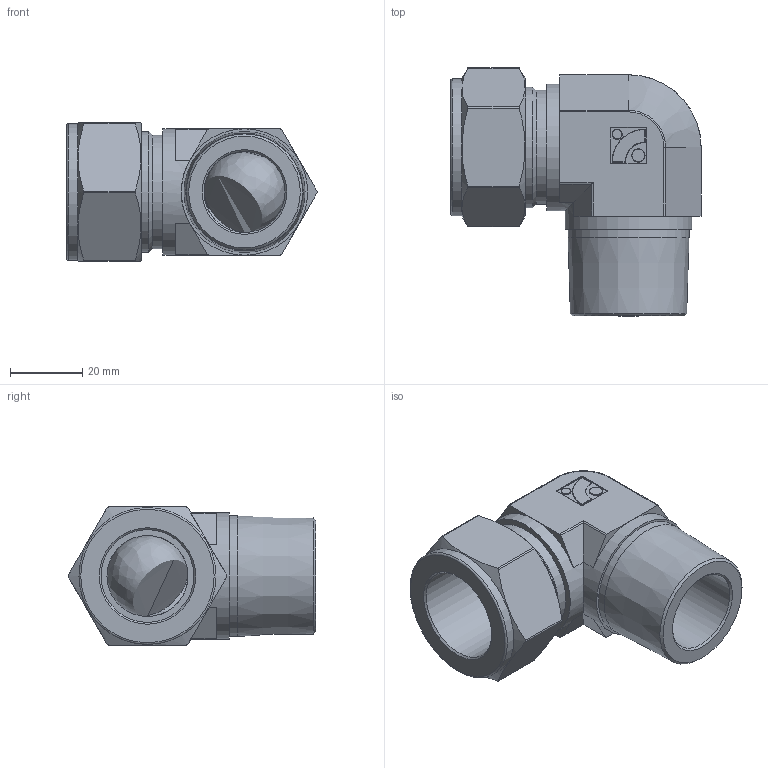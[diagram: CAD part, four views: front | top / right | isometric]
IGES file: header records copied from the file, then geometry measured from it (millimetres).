
Global section: file name: No Iges File Name specified; native system: Autodesk Inventor 2012; preprocessor: AutoDesk Inventor Iges Exporter R2012; author: 硅己绕,,1; organization: 1; date: 20150703.114517; units: millimetre
Bounding box: 69.13 x 68.42 x 38.1 mm (x, y, z)
Volume: 59277.2 mm3; surface area: 20104.6 mm2
Topology: 1 solids, 1 shells, 129 faces, 289 edges, 167 vertices
Faces by surface type: plane 42, cylinder 35, revolution 29, torus 12, cone 7, sphere 4
Full cylindrical faces by diameter (mm): 2.7 x1, 3.6 x1, 31.45 x1, 33.34 x1, 33.4 x1, 34.9 x2, 37.8 x1
